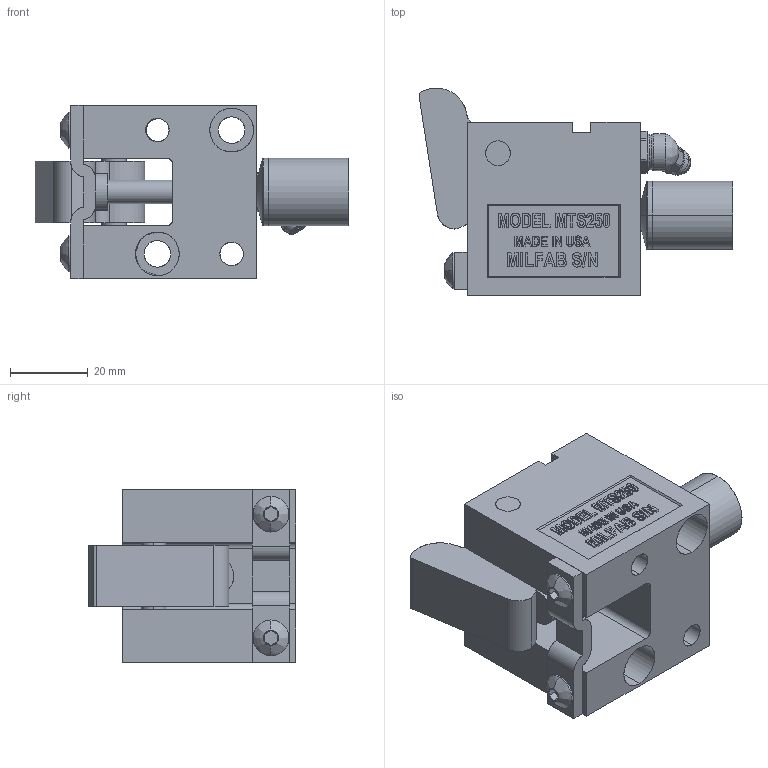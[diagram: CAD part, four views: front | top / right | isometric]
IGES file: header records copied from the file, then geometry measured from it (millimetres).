
Start section: SolidWorks IGES file using analytic representation for surfaces
Global section: file name: Y:\METRIC TOP MOUNT CAM UNITS\MTS250\OPEN\MTS250-O.IGS; native system: SolidWorks 2006 by SolidWorks Corporation; preprocessor: SolidWorks 2006 by SolidWorks Corporation; author: Jim; date: 090116.141611; units: inch
Bounding box: 80.57 x 53.24 x 44.45 mm (x, y, z)
Surface area: 28985.8 mm2 (no closed solid volume)
Topology: 0 solids, 0 shells, 591 faces, 7013 edges, 7009 vertices
Faces by surface type: bspline 469, revolution 122
